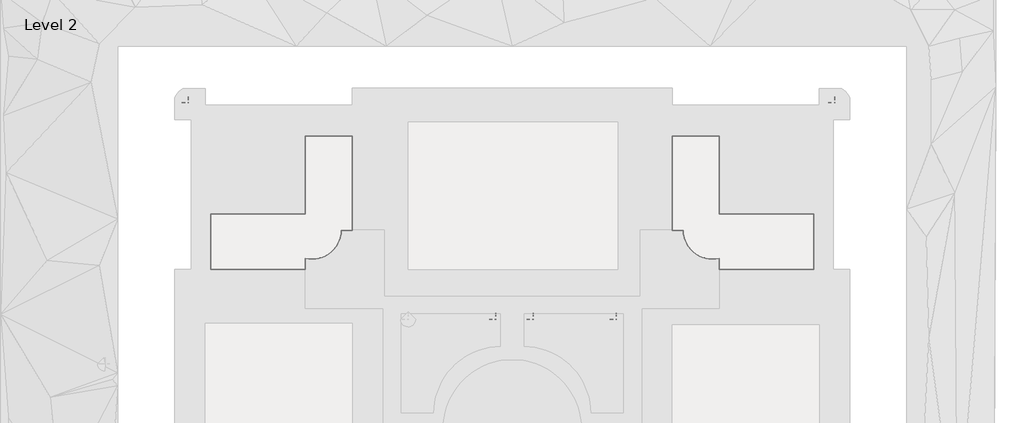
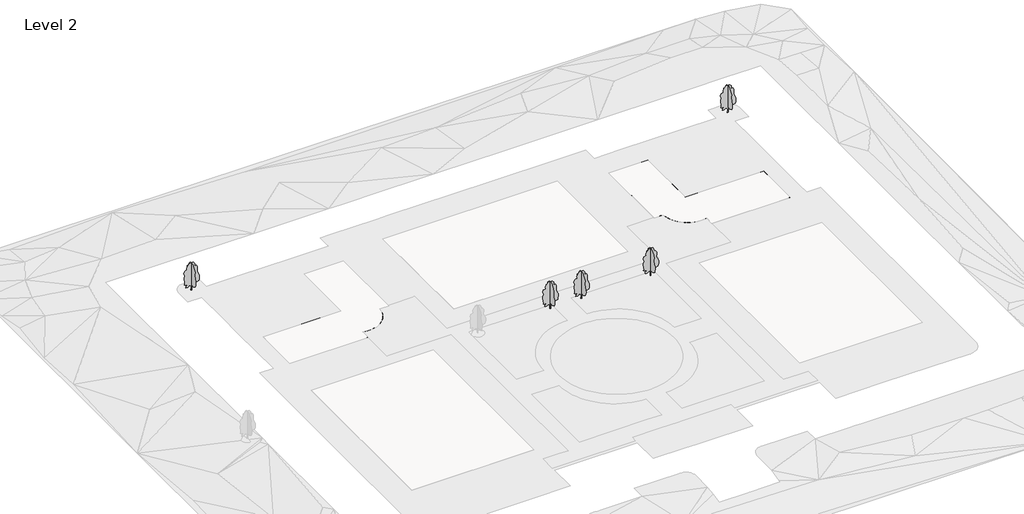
# One storey, part 3 of 3: 5 geographic elements, 2 proxies.
"""IFC4 building model written with IfcOpenShell, lengths in millimetres."""

from ifc_helpers import new_model, si_unit, origin, place, context, project, spatial, triangles, transform, mapped, element, save
from components import rpc_tree_deciduous_red_ash_25_14781bec

model = new_model("IFC4")

# Units and contexts
model_context = context("Model", 3, world=origin())
ifc_project = project(units=[si_unit("LENGTHUNIT", "METRE", prefix="MILLI")], contexts=[model_context])

# Site, building, storey
site = spatial("IfcSite", under=ifc_project)
building = spatial("IfcBuilding", under=site)
storey = spatial("IfcBuildingStorey", under=building, Name="Level 2", Elevation=3048.0)

# Proxies
placement = place(None, origin())
element("IfcBuildingElementProxy", 1, Name="Building Element Proxy", at=placement, inside=storey, context=model_context, shape_type="Tessellation", body=[
    triangles([(44244.815625, -56796.8169067, 2743.0404167), (44244.815625, -56796.8169067, 3048.0), (44244.815625, -36211.8175781, 2743.0404167), (44244.815625, -36211.8175781, 3048.0), (37693.5573669, -36211.8175781, 2743.0404167), (37693.5573669, -36211.8175781, 3048.0), (33881.6179504, -36211.8175781, 2743.0404167), (33881.6179504, -36211.8175781, 3048.0), (33881.6179504, -40617.4184326, 2743.0404167), (33881.6179504, -40617.4184326, 3048.0), (33881.6179504, -53280.6175781, 2743.0404167), (33881.6179504, -53280.6175781, 3048.0), (22924.8099976, -53280.6175781, 2743.0404167), (22924.8099976, -53280.6175781, 3048.0), (13155.2167877, -53280.6175781, 2743.0404167), (13155.2167877, -53280.6175781, 3048.0)], [[1, 4, 2], [1, 3, 4], [3, 6, 4], [3, 5, 6], [5, 8, 6], [5, 7, 8], [7, 10, 8], [7, 9, 10], [9, 12, 10], [9, 11, 12], [11, 14, 12], [11, 13, 14], [13, 16, 14], [13, 15, 16]], closed=False),
    triangles([(40156.7163208, -61111.5860962, 2743.0404167), (40156.7163208, -61111.5860962, 3048.0), (40158.8510742, -61108.9211426, 2743.0404167), (40158.8510742, -61108.9211426, 3048.0)], [[1, 4, 2], [1, 3, 4]], closed=False),
    triangles([(33881.6179504, -63034.2175781, 2743.0404167), (33881.6179504, -63034.2175781, 3048.0), (34633.7139038, -63172.3579834, 2743.0404167), (34633.7139038, -63172.3579834, 3048.0), (35396.9231323, -63219.7643921, 2743.0404167), (35396.9231323, -63219.7643921, 3048.0), (36160.3346741, -63175.7484741, 2743.0404167), (36160.3346741, -63175.7484741, 3048.0), (36913.0375671, -63040.9473999, 2743.0404167), (36913.0375671, -63040.9473999, 3048.0), (37644.2743286, -62817.2819824, 2743.0404167), (37644.2743286, -62817.2819824, 3048.0), (38343.596759, -62507.9566772, 2743.0404167), (38343.596759, -62507.9566772, 3048.0), (39001.0054688, -62117.3851685, 2743.0404167), (39001.0054688, -62117.3851685, 3048.0), (39607.1080078, -61651.1531616, 2743.0404167), (39607.1080078, -61651.1531616, 3048.0), (40145.3960815, -61123.6086182, 2743.0404167), (40145.3960815, -61123.6086182, 3048.0)], [[1, 4, 2], [1, 3, 4], [3, 6, 4], [3, 5, 6], [5, 8, 6], [5, 7, 8], [7, 10, 8], [7, 9, 10], [9, 12, 10], [9, 11, 12], [11, 14, 12], [11, 13, 14], [13, 16, 14], [13, 15, 16], [15, 18, 16], [15, 17, 18], [17, 20, 18], [17, 19, 20]], closed=False),
    triangles([(13155.2167877, -53280.6175781, 2743.0404167), (13155.2167877, -53280.6175781, 3048.0), (13155.2167877, -64571.7004761, 2743.0404167), (13155.2167877, -64571.7004761, 3048.0), (13155.2167877, -65472.6175781, 2743.0404167), (13155.2167877, -65472.6175781, 3048.0), (33881.6179504, -65472.6175781, 2743.0404167), (33881.6179504, -65472.6175781, 3048.0)], [[1, 4, 2], [1, 3, 4], [3, 6, 4], [3, 5, 6], [5, 8, 6], [5, 7, 8]], closed=False),
    triangles([(40158.8510742, -61108.9211426, 2743.0404167), (40158.8510742, -61108.9211426, 3048.0), (40631.5989624, -60519.3431763, 2743.0404167), (40631.5989624, -60519.3431763, 3048.0), (40636.1056641, -60512.0924561, 2743.0404167), (40636.1056641, -60512.0924561, 3048.0), (40664.7504272, -60466.0208496, 2743.0404167), (40664.7504272, -60466.0208496, 3048.0), (41035.3464111, -59869.9409546, 2743.0404167), (41035.3464111, -59869.9409546, 3048.0), (41078.8879395, -59776.635022, 2743.0404167), (41078.8879395, -59776.635022, 3048.0), (41358.7080688, -59176.9972046, 2743.0404167), (41358.7080688, -59176.9972046, 3048.0), (41399.5102295, -59052.6327026, 2743.0404167), (41399.5102295, -59052.6327026, 3048.0), (41529.767395, -58655.5732178, 2743.0404167), (41529.767395, -58655.5732178, 3048.0), (41597.0702637, -58450.4182983, 2743.0404167), (41597.0702637, -58450.4182983, 3048.0), (41678.1071777, -58045.1918701, 2743.0404167), (41678.1071777, -58045.1918701, 3048.0), (41747.0192505, -57700.5849976, 2743.0404167), (41747.0192505, -57700.5849976, 3048.0), (41769.8876221, -57407.0540771, 2743.0404167), (41769.8876221, -57407.0540771, 3048.0), (41806.415625, -56938.2175781, 2743.0404167), (41806.415625, -56938.2175781, 3048.0), (42500.4755859, -56938.2175781, 2743.0404167), (42500.4755859, -56938.2175781, 3048.0), (42602.7112061, -56938.2175781, 2743.0404167), (42602.7112061, -56938.2175781, 3048.0), (42630.211853, -56938.2175781, 2743.0404167), (42630.211853, -56938.2175781, 3048.0), (44244.815625, -56938.2175781, 2743.0404167), (44244.815625, -56938.2175781, 3048.0), (44244.815625, -56796.8169067, 2743.0404167), (44244.815625, -56796.8169067, 3048.0)], [[1, 4, 2], [1, 3, 4], [3, 6, 4], [3, 5, 6], [5, 8, 6], [5, 7, 8], [7, 10, 8], [7, 9, 10], [9, 12, 10], [9, 11, 12], [11, 14, 12], [11, 13, 14], [13, 16, 14], [13, 15, 16], [15, 18, 16], [15, 17, 18], [17, 20, 18], [17, 19, 20], [19, 22, 20], [19, 21, 22], [21, 24, 22], [21, 23, 24], [23, 26, 24], [23, 25, 26], [25, 28, 26], [25, 27, 28], [27, 30, 28], [27, 29, 30], [29, 32, 30], [29, 31, 32], [31, 34, 32], [31, 33, 34], [33, 36, 34], [33, 35, 36], [35, 38, 36], [35, 37, 38]], closed=False),
    triangles([(40145.3960815, -61123.6086182, 2743.0404167), (40145.3960815, -61123.6086182, 3048.0), (40153.2421143, -61115.9207153, 2743.0404167), (40153.2421143, -61115.9207153, 3048.0), (40156.7163208, -61111.5860962, 2743.0404167), (40156.7163208, -61111.5860962, 3048.0)], [[1, 4, 2], [1, 3, 4], [3, 6, 4], [3, 5, 6]], closed=False),
    triangles([(33881.6179504, -65472.6175781, 2743.0404167), (33881.6179504, -65472.6175781, 3048.0), (33881.6179504, -63034.2175781, 2743.0404167), (33881.6179504, -63034.2175781, 3048.0)], [[1, 4, 2], [1, 3, 4]], closed=False),
    triangles([(13155.2167877, -53280.6175781, 2743.0404167), (13155.2167877, -65472.6175781, 2743.0404167), (33881.6179504, -65472.6175781, 2743.0404167), (33881.6179504, -63034.2175781, 2743.0404167), (34633.7139038, -63172.3579834, 2743.0404167), (35396.9231323, -63219.7643921, 2743.0404167), (36160.3346741, -63175.7484741, 2743.0404167), (36913.0375671, -63040.9473999, 2743.0404167), (37644.2743286, -62817.2819824, 2743.0404167), (38343.596759, -62507.9566772, 2743.0404167), (39001.0054688, -62117.3851685, 2743.0404167), (39607.1080078, -61651.1531616, 2743.0404167), (40153.2421143, -61115.9207153, 2743.0404167), (40631.5989624, -60519.3431763, 2743.0404167), (41035.3464111, -59869.9409546, 2743.0404167), (41358.7080688, -59176.9972046, 2743.0404167), (41597.0702637, -58450.4182983, 2743.0404167), (41747.0192505, -57700.5849976, 2743.0404167), (41806.415625, -56938.2175781, 2743.0404167), (44244.815625, -56938.2175781, 2743.0404167), (44244.815625, -36211.8175781, 2743.0404167), (33881.6179504, -36211.8175781, 2743.0404167), (33881.6179504, -53280.6175781, 2743.0404167)], [[4, 2, 3], [23, 5, 6], [23, 6, 7], [1, 4, 23], [4, 1, 2], [4, 5, 23], [22, 23, 21], [9, 23, 8], [10, 23, 9], [7, 8, 23], [11, 12, 23], [13, 23, 12], [15, 23, 14], [23, 13, 14], [23, 15, 16], [18, 23, 17], [19, 23, 18], [19, 20, 21], [23, 19, 21], [17, 23, 16], [23, 10, 11]], closed=False),
])
element("IfcBuildingElementProxy", 2, Name="Building Element Proxy", at=placement, inside=storey, context=model_context, shape_type="Tessellation", body=[
    triangles([(124712.015625, -65472.6175781, 2743.0404167), (124712.015625, -65472.6175781, 3048.0), (145438.415625, -65472.6175781, 2743.0404167), (145438.415625, -65472.6175781, 3048.0), (145438.415625, -58699.9333008, 2743.0404167), (145438.415625, -58699.9333008, 3048.0), (145438.415625, -53280.6175781, 2743.0404167), (145438.415625, -53280.6175781, 3048.0)], [[1, 4, 2], [1, 3, 4], [3, 6, 4], [3, 5, 6], [5, 8, 6], [5, 7, 8]], closed=False),
    triangles([(118448.2398193, -61123.6086182, 2743.0404167), (118448.2398193, -61123.6086182, 3048.0), (118986.5232422, -61651.1531616, 2743.0404167), (118986.5232422, -61651.1531616, 3048.0), (119592.6257813, -62117.3851685, 2743.0404167), (119592.6257813, -62117.3851685, 3048.0), (120250.0368164, -62507.9566772, 2743.0404167), (120250.0368164, -62507.9566772, 3048.0), (120949.3615723, -62817.2819824, 2743.0404167), (120949.3615723, -62817.2819824, 3048.0), (121680.6006592, -63040.9473999, 2743.0404167), (121680.6006592, -63040.9473999, 3048.0), (122433.2989014, -63175.7484741, 2743.0404167), (122433.2989014, -63175.7484741, 3048.0), (123196.7127686, -63219.7643921, 2743.0404167), (123196.7127686, -63219.7643921, 3048.0), (123959.9219971, -63172.3579834, 2743.0404167), (123959.9219971, -63172.3579834, 3048.0), (124712.015625, -63034.2175781, 2743.0404167), (124712.015625, -63034.2175781, 3048.0)], [[1, 4, 2], [1, 3, 4], [3, 6, 4], [3, 5, 6], [5, 8, 6], [5, 7, 8], [7, 10, 8], [7, 9, 10], [9, 12, 10], [9, 11, 12], [11, 14, 12], [11, 13, 14], [13, 16, 14], [13, 15, 16], [15, 18, 16], [15, 17, 18], [17, 20, 18], [17, 19, 20]], closed=False),
    triangles([(118434.7801758, -61108.9211426, 2743.0404167), (118434.7801758, -61108.9211426, 3048.0), (118436.9195801, -61111.5860962, 2743.0404167), (118436.9195801, -61111.5860962, 3048.0)], [[1, 4, 2], [1, 3, 4]], closed=False),
    triangles([(145438.415625, -53280.6175781, 2743.0404167), (145438.415625, -53280.6175781, 3048.0), (139175.1049072, -53280.6175781, 2743.0404167), (139175.1049072, -53280.6175781, 3048.0), (124712.015625, -53280.6175781, 2743.0404167), (124712.015625, -53280.6175781, 3048.0), (124712.015625, -40766.4558472, 2743.0404167), (124712.015625, -40766.4558472, 3048.0), (124712.015625, -36211.8175781, 2743.0404167), (124712.015625, -36211.8175781, 3048.0), (119448.0485596, -36211.8175781, 2743.0404167), (119448.0485596, -36211.8175781, 3048.0), (114348.815625, -36211.8175781, 2743.0404167), (114348.815625, -36211.8175781, 3048.0), (114348.815625, -56796.8169067, 2743.0404167), (114348.815625, -56796.8169067, 3048.0)], [[1, 4, 2], [1, 3, 4], [3, 6, 4], [3, 5, 6], [5, 8, 6], [5, 7, 8], [7, 10, 8], [7, 9, 10], [9, 12, 10], [9, 11, 12], [11, 14, 12], [11, 13, 14], [13, 16, 14], [13, 15, 16]], closed=False),
    triangles([(124712.015625, -63034.2175781, 2743.0404167), (124712.015625, -63034.2175781, 3048.0), (124712.015625, -65472.6175781, 2743.0404167), (124712.015625, -65472.6175781, 3048.0)], [[1, 4, 2], [1, 3, 4]], closed=False),
    triangles([(118436.9195801, -61111.5860962, 2743.0404167), (118436.9195801, -61111.5860962, 3048.0), (118440.3891357, -61115.9207153, 2743.0404167), (118440.3891357, -61115.9207153, 3048.0), (118448.2398193, -61123.6086182, 2743.0404167), (118448.2398193, -61123.6086182, 3048.0)], [[1, 4, 2], [1, 3, 4], [3, 6, 4], [3, 5, 6]], closed=False),
    triangles([(114348.815625, -56796.8169067, 2743.0404167), (114348.815625, -56796.8169067, 3048.0), (114348.815625, -56938.2175781, 2743.0404167), (114348.815625, -56938.2175781, 3048.0), (115963.4240479, -56938.2175781, 2743.0404167), (115963.4240479, -56938.2175781, 3048.0), (115990.9200439, -56938.2175781, 2743.0404167), (115990.9200439, -56938.2175781, 3048.0), (116093.1556641, -56938.2175781, 2743.0404167), (116093.1556641, -56938.2175781, 3048.0), (116787.215625, -56938.2175781, 2743.0404167), (116787.215625, -56938.2175781, 3048.0), (116823.7436279, -57407.0540771, 2743.0404167), (116823.7436279, -57407.0540771, 3048.0), (116846.6166504, -57700.5849976, 2743.0404167), (116846.6166504, -57700.5849976, 3048.0), (116915.5240723, -58045.1918701, 2743.0404167), (116915.5240723, -58045.1918701, 3048.0), (116996.5609863, -58450.4182983, 2743.0404167), (116996.5609863, -58450.4182983, 3048.0), (117063.8685059, -58655.5732178, 2743.0404167), (117063.8685059, -58655.5732178, 3048.0), (117194.1210205, -59052.6327026, 2743.0404167), (117194.1210205, -59052.6327026, 3048.0), (117234.927832, -59176.9972046, 2743.0404167), (117234.927832, -59176.9972046, 3048.0), (117514.7433105, -59776.635022, 2743.0404167), (117514.7433105, -59776.635022, 3048.0), (117558.2848389, -59869.9409546, 2743.0404167), (117558.2848389, -59869.9409546, 3048.0), (117928.8854736, -60466.0208496, 2743.0404167), (117928.8854736, -60466.0208496, 3048.0), (117957.5255859, -60512.0924561, 2743.0404167), (117957.5255859, -60512.0924561, 3048.0), (117962.0369385, -60519.3431763, 2743.0404167), (117962.0369385, -60519.3431763, 3048.0), (118434.7801758, -61108.9211426, 2743.0404167), (118434.7801758, -61108.9211426, 3048.0)], [[1, 4, 2], [1, 3, 4], [3, 6, 4], [3, 5, 6], [5, 8, 6], [5, 7, 8], [7, 10, 8], [7, 9, 10], [9, 12, 10], [9, 11, 12], [11, 14, 12], [11, 13, 14], [13, 16, 14], [13, 15, 16], [15, 18, 16], [15, 17, 18], [17, 20, 18], [17, 19, 20], [19, 22, 20], [19, 21, 22], [21, 24, 22], [21, 23, 24], [23, 26, 24], [23, 25, 26], [25, 28, 26], [25, 27, 28], [27, 30, 28], [27, 29, 30], [29, 32, 30], [29, 31, 32], [31, 34, 32], [31, 33, 34], [33, 36, 34], [33, 35, 36], [35, 38, 36], [35, 37, 38]], closed=False),
    triangles([(145438.415625, -53280.6175781, 2743.0404167), (124712.015625, -53280.6175781, 2743.0404167), (124712.015625, -36211.8175781, 2743.0404167), (114348.815625, -36211.8175781, 2743.0404167), (114348.815625, -56938.2175781, 2743.0404167), (116787.215625, -56938.2175781, 2743.0404167), (116846.6166504, -57700.5849976, 2743.0404167), (116996.5609863, -58450.4182983, 2743.0404167), (117234.927832, -59176.9972046, 2743.0404167), (117558.2848389, -59869.9409546, 2743.0404167), (117962.0369385, -60519.3431763, 2743.0404167), (118440.3891357, -61115.9207153, 2743.0404167), (118986.5232422, -61651.1531616, 2743.0404167), (119592.6257813, -62117.3851685, 2743.0404167), (120250.0368164, -62507.9566772, 2743.0404167), (120949.3615723, -62817.2819824, 2743.0404167), (121680.6006592, -63040.9473999, 2743.0404167), (122433.2989014, -63175.7484741, 2743.0404167), (123196.7127686, -63219.7643921, 2743.0404167), (123959.9219971, -63172.3579834, 2743.0404167), (124712.015625, -63034.2175781, 2743.0404167), (124712.015625, -65472.6175781, 2743.0404167), (145438.415625, -65472.6175781, 2743.0404167)], [[2, 10, 11], [13, 2, 12], [12, 2, 11], [9, 10, 2], [4, 5, 6], [6, 7, 2], [2, 8, 9], [8, 2, 7], [4, 6, 2], [14, 2, 13], [2, 17, 18], [19, 2, 18], [21, 22, 23], [2, 19, 20], [4, 2, 3], [2, 15, 16], [2, 14, 15], [21, 1, 2], [1, 21, 23], [2, 16, 17], [20, 21, 2]], closed=False),
])

# Geographic elements
rpc_tree_deciduous_red_ash_25_shape = rpc_tree_deciduous_red_ash_25_14781bec(model_context)
element("IfcGeographicElement", 3, ObjectType="RPC Tree - Deciduous : Red Ash - 25'", at=placement, inside=storey, context=model_context, shape_type="MappedRepresentation", body=[
    mapped(rpc_tree_deciduous_red_ash_25_shape, transform((8278.4170127, -28896.6164442, 3048.0), x_axis=(1.0, 0.0, 0.0), y_axis=(0.0, 1.0, 0.0), z_axis=(0.0, 0.0, 1.0))),
])
element("IfcGeographicElement", 4, ObjectType="RPC Tree - Deciduous : Red Ash - 25'", at=placement, inside=storey, context=model_context, shape_type="MappedRepresentation", body=[
    mapped(rpc_tree_deciduous_red_ash_25_shape, transform((150010.4170127, -28896.6164442, 3048.0), x_axis=(1.0, 0.0, 0.0), y_axis=(0.0, 1.0, 0.0), z_axis=(0.0, 0.0, 1.0))),
])
element("IfcGeographicElement", 5, ObjectType="RPC Tree - Deciduous : Red Ash - 25'", at=placement, inside=storey, context=model_context, shape_type="MappedRepresentation", body=[
    mapped(rpc_tree_deciduous_red_ash_25_shape, transform((75639.2170127, -76445.4164442, 3048.0), x_axis=(1.0, 0.0, 0.0), y_axis=(0.0, 1.0, 0.0), z_axis=(0.0, 0.0, 1.0))),
])
element("IfcGeographicElement", 6, ObjectType="RPC Tree - Deciduous : Red Ash - 25'", at=placement, inside=storey, context=model_context, shape_type="MappedRepresentation", body=[
    mapped(rpc_tree_deciduous_red_ash_25_shape, transform((83868.8170127, -76445.4164442, 3048.0), x_axis=(1.0, 0.0, 0.0), y_axis=(0.0, 1.0, 0.0), z_axis=(0.0, 0.0, 1.0))),
])
element("IfcGeographicElement", 7, ObjectType="RPC Tree - Deciduous : Red Ash - 25'", at=placement, inside=storey, context=model_context, shape_type="MappedRepresentation", body=[
    mapped(rpc_tree_deciduous_red_ash_25_shape, transform((102156.8170127, -76445.4164442, 3048.0), x_axis=(1.0, 0.0, 0.0), y_axis=(0.0, 1.0, 0.0), z_axis=(0.0, 0.0, 1.0))),
])

save(model, "model.ifc")
